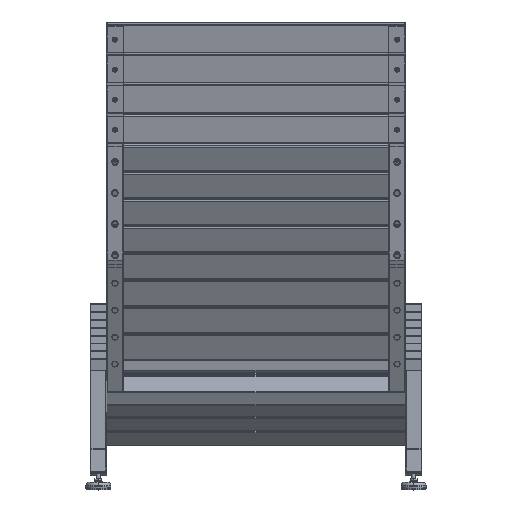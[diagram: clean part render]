
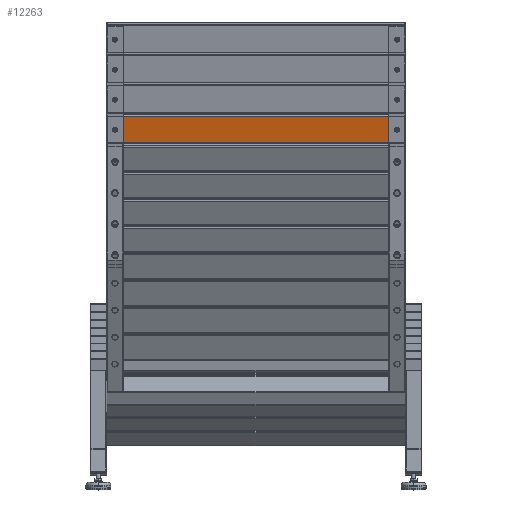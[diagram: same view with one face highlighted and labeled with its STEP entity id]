
A CAD part, top view. The second image highlights one B-rep face of the part: STEP entity #12263.
In plain terms, the highlighted planar face has unit normal (0, -0.259, 0.966) as drawn and (0, -1, 0) by its records, which use the part's own axes.
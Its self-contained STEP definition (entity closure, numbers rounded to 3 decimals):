
#716 = VECTOR ( 'NONE', #11557, 1000. ) ;
#1113 = VECTOR ( 'NONE', #2394, 1000. ) ;
#1720 = VERTEX_POINT ( 'NONE', #12954 ) ;
#1810 = CARTESIAN_POINT ( 'NONE',  ( 0., 0., -33. ) ) ;
#2017 = LINE ( 'NONE', #2131, #716 ) ;
#2045 = ORIENTED_EDGE ( 'NONE', *, *, #17410, .T. ) ;
#2131 = CARTESIAN_POINT ( 'NONE',  ( 0., 0., 33. ) ) ;
#2237 = EDGE_CURVE ( 'NONE', #1720, #12022, #2017, .T. ) ;
#2394 = DIRECTION ( 'NONE',  ( 1., 0., 0. ) ) ;
#2567 = LINE ( 'NONE', #11631, #3858 ) ;
#3097 = DIRECTION ( 'NONE',  ( 0., 0., -1. ) ) ;
#3256 = ORIENTED_EDGE ( 'NONE', *, *, #7768, .T. ) ;
#3858 = VECTOR ( 'NONE', #11507, 1000. ) ;
#4246 = DIRECTION ( 'NONE',  ( 0., 0., 1. ) ) ;
#5159 = LINE ( 'NONE', #19649, #23257 ) ;
#7130 = LINE ( 'NONE', #1810, #1113 ) ;
#7768 = EDGE_CURVE ( 'NONE', #12022, #17766, #5159, .T. ) ;
#11470 = DIRECTION ( 'NONE',  ( 0., 1., 0. ) ) ;
#11507 = DIRECTION ( 'NONE',  ( 0., 0., 1. ) ) ;
#11557 = DIRECTION ( 'NONE',  ( -1., 0., 0. ) ) ;
#11631 = CARTESIAN_POINT ( 'NONE',  ( 358., 0., 0. ) ) ;
#11952 = CARTESIAN_POINT ( 'NONE',  ( 0., 0., 0. ) ) ;
#12007 = CARTESIAN_POINT ( 'NONE',  ( -358., 0., 33. ) ) ;
#12022 = VERTEX_POINT ( 'NONE', #12007 ) ;
#12263 = ADVANCED_FACE ( 'NONE', ( #17402 ), #13431, .F. ) ;
#12954 = CARTESIAN_POINT ( 'NONE',  ( 358., 0., 33. ) ) ;
#13431 = PLANE ( 'NONE',  #16100 ) ;
#14462 = VERTEX_POINT ( 'NONE', #17597 ) ;
#15454 = ORIENTED_EDGE ( 'NONE', *, *, #2237, .T. ) ;
#16100 = AXIS2_PLACEMENT_3D ( 'NONE', #11952, #11470, #4246 ) ;
#17402 = FACE_OUTER_BOUND ( 'NONE', #22053, .T. ) ;
#17410 = EDGE_CURVE ( 'NONE', #14462, #1720, #2567, .T. ) ;
#17597 = CARTESIAN_POINT ( 'NONE',  ( 358., 0., -33. ) ) ;
#17766 = VERTEX_POINT ( 'NONE', #20451 ) ;
#19649 = CARTESIAN_POINT ( 'NONE',  ( -358., 0., 0. ) ) ;
#19746 = EDGE_CURVE ( 'NONE', #17766, #14462, #7130, .T. ) ;
#20451 = CARTESIAN_POINT ( 'NONE',  ( -358., 0., -33. ) ) ;
#21319 = ORIENTED_EDGE ( 'NONE', *, *, #19746, .T. ) ;
#22053 = EDGE_LOOP ( 'NONE', ( #2045, #15454, #3256, #21319 ) ) ;
#23257 = VECTOR ( 'NONE', #3097, 1000. ) ;
